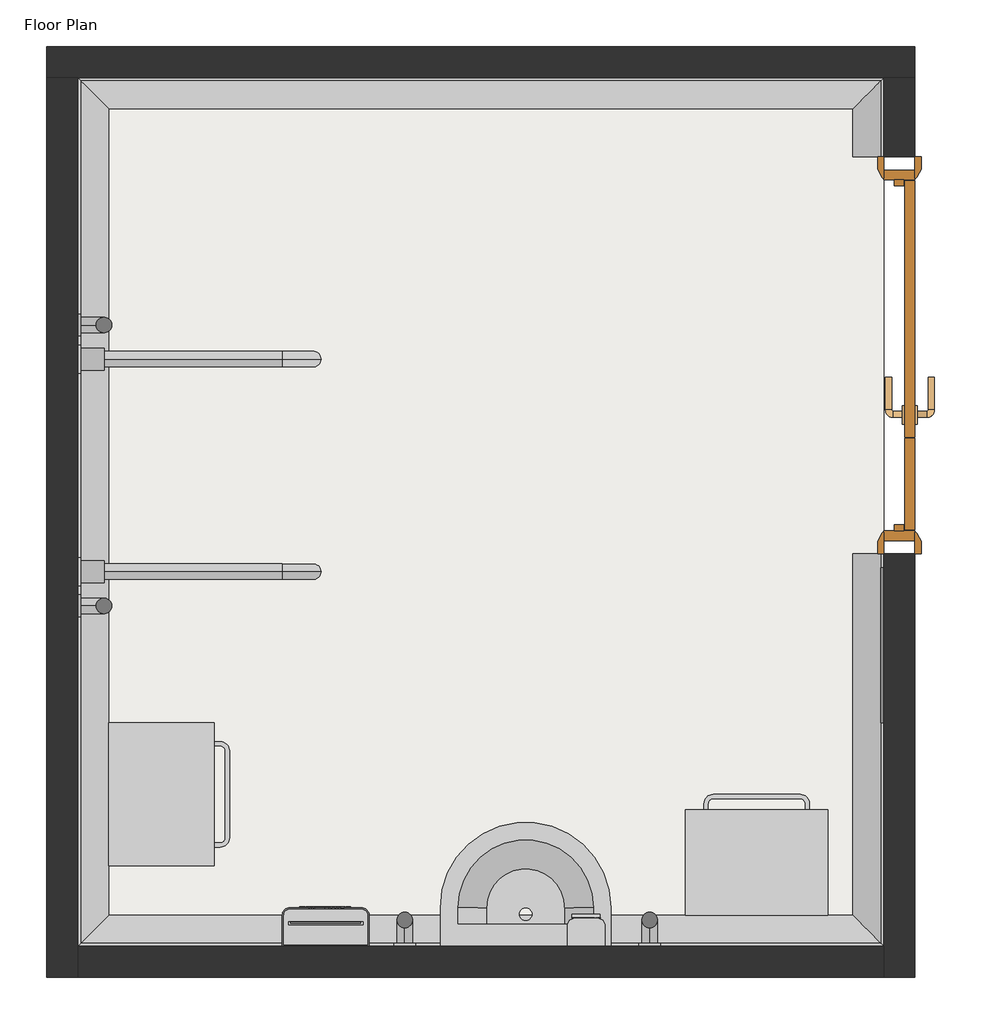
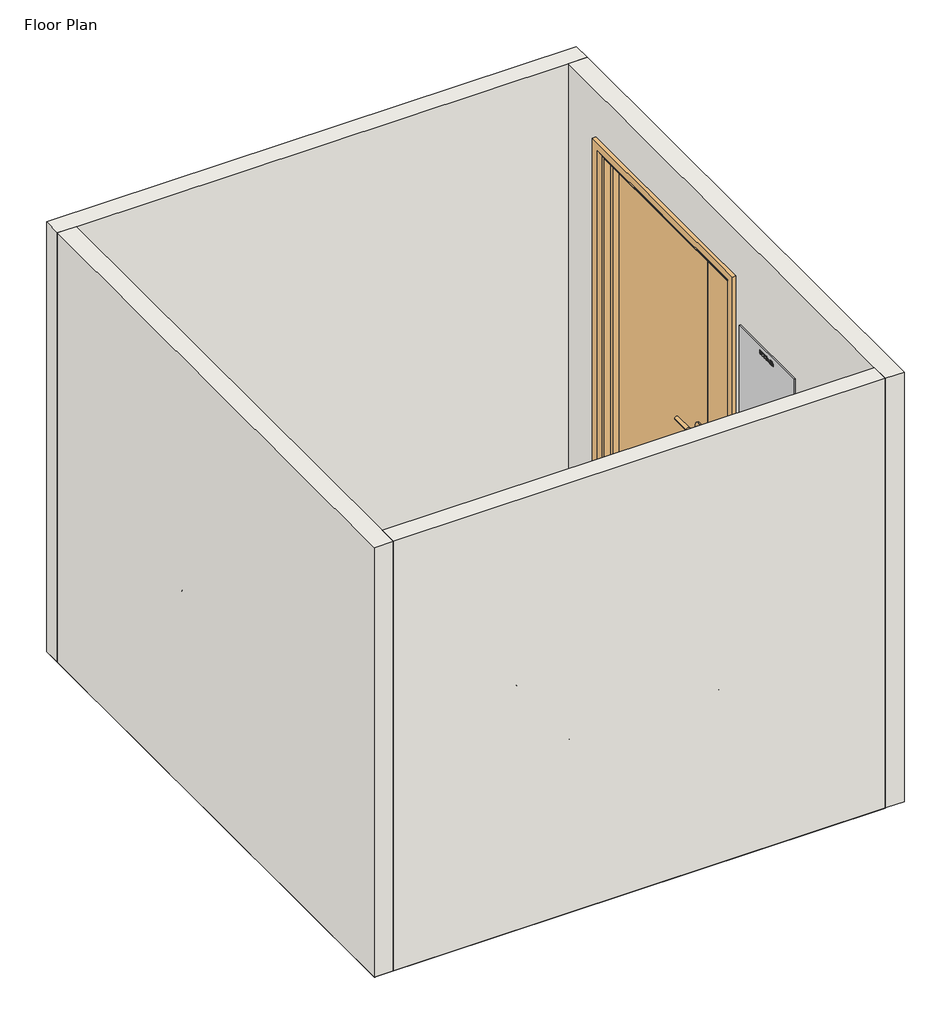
# One storey, incomplete: 10 proxies, 5 furniture elements, 4 walls, 1 door, 1 flow terminal, 1 slab.
"""IFC4 building model written with IfcOpenShell, lengths in millimetres."""

from ifc_helpers import new_model, si_unit, frame, origin, origin_with_axes, place, context, project, spatial, polyline, circle_curve, ellipse_curve, outline, extrude, faceted_brep, transform, mapped, element, save
from ifc_brep_helpers import plane_surface, revolved_surface, advanced_brep
from components import type_1_3e4eb001, type_1_f4c963d5, type_1_f275d547, type_1_04eb1ea4, bimhealth_door_and_half_1210x2110mm_sgl_swing_70a7d20a, flow_terminal_9bf15598, furniture_29951476, furniture_c6a9ce10, furniture_af9008cf, furniture_166ce8d1, furniture_26d36cfe

model = new_model("IFC4")

# Units and contexts
model_context = context("Model", 3, world=origin())
ifc_project = project(units=[si_unit("LENGTHUNIT", "METRE", prefix="MILLI")], contexts=[model_context])

# Site, building, storey
site = spatial("IfcSite", under=ifc_project)
building = spatial("IfcBuilding", under=site)
storey = spatial("IfcBuildingStorey", under=building, Name="Floor Plan", Elevation=0.0)

# Proxies
placement = place(None, origin())
element("IfcBuildingElementProxy", 1, Name="Wall Sweeps", at=placement, inside=storey, context=model_context, shape_type="AdvancedBrep", body=[
    advanced_brep(
    [(2105.0, 5160.0, 0.0), (2105.0, 5160.0, 100.0), (2095.0, 5160.0, 100.0), (2005.0, 5160.0, 10.0), (2005.0, 5160.0, 0.0), (2105.0, 5415.0, 0.0), (2005.0, 5315.0, 0.0), (2005.0, 5315.0, 10.0), (2095.0, 5405.0, 100.0), (2105.0, 5415.0, 100.0)],
    [
        (0, 1),
        (1, 2),
        (2, 3, circle_curve(frame((2005.0, 5160.0, 100.0), z_axis=(0.0, 1.0, 0.0), x_axis=(-1.0, 0.0, 0.0)), 90.0)),
        (3, 4),
        (4, 0),
        (5, 6),
        (6, 7),
        (7, 8, ellipse_curve(frame((2005.0, 5315.0, 100.0), z_axis=(0.7071067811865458, -0.7071067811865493, 0.0), x_axis=(0.7071067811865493, 0.7071067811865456, 0.0)), 127.2792206, 90.0)),
        (8, 9),
        (9, 5),
        (4, 6),
        (5, 0),
        (3, 7),
        (2, 8),
        (1, 9),
    ],
    [
        plane_surface(frame((2004.5012438, 5160.0, 0.0), z_axis=(0.0, -1.0, 0.0), x_axis=(0.0, 0.0, 1.0))),
        plane_surface(frame((2105.0, 5415.0, -304.8), z_axis=(-0.7071067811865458, 0.7071067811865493, 0.0), x_axis=(-0.7071067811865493, -0.7071067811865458, 0.0))),
        plane_surface(frame((2005.0, 5160.0, 0.0), z_axis=(0.0, 0.0, -1.0), x_axis=(0.0, 1.0, 0.0))),
        plane_surface(frame((2005.0, 5160.0, 10.0), z_axis=(-1.0, 0.0, 0.0), x_axis=(0.0, 1.0, 0.0))),
        revolved_surface(polyline([(1915.0, 5405.0, 100.0), (1915.0, 5160.0, 100.0)]), (2005.0, 5160.0, 100.0), (0.0, 1.0, 0.0)),
        plane_surface(frame((2105.0, 5160.0, 100.0), z_axis=(0.0, 0.0, 1.0), x_axis=(0.0, 1.0, 0.0))),
        plane_surface(frame((2105.0, 5160.0, 0.0), z_axis=(1.0, 0.0, 0.0), x_axis=(0.0, 1.0, 0.0))),
    ],
    [
        (0, [[1, 2, 3, 4, 5]]),
        (1, [[6, 7, 8, 9, 10]]),
        (2, [[-5, 11, -6, 12]]),
        (3, [[-4, 13, -7, -11]]),
        (4, [[-3, 14, -8, -13]]),
        (5, [[-2, 15, -9, -14]]),
        (6, [[-1, -12, -10, -15]]),
    ],
),
    advanced_brep(
    [(2105.0, 2615.0, 0.0), (2105.0, 2615.0, 100.0), (2095.0, 2625.0, 100.0), (2005.0, 2715.0, 10.0), (2005.0, 2715.0, 0.0), (2105.0, 3880.0, 0.0), (2005.0, 3880.0, 0.0), (2005.0, 3880.0, 10.0), (2095.0, 3880.0, 100.0), (2105.0, 3880.0, 100.0)],
    [
        (0, 1),
        (1, 2),
        (2, 3, ellipse_curve(frame((2005.0, 2715.0, 100.0), z_axis=(0.7071067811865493, 0.7071067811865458, 0.0), x_axis=(-0.7071067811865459, 0.7071067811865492, 0.0)), 127.2792206, 90.0)),
        (3, 4),
        (4, 0),
        (5, 6),
        (6, 7),
        (7, 8, circle_curve(frame((2005.0, 3880.0, 100.0), z_axis=(0.0, -1.0, 0.0), x_axis=(-1.0, 0.0, 0.0)), 90.0)),
        (8, 9),
        (9, 5),
        (4, 6),
        (5, 0),
        (3, 7),
        (2, 8),
        (1, 9),
    ],
    [
        plane_surface(frame((2105.0, 2615.0, -304.8), z_axis=(-0.7071067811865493, -0.7071067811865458, 0.0), x_axis=(-0.7071067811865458, 0.7071067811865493, 0.0))),
        plane_surface(frame((2004.5012438, 3880.0, 0.0), z_axis=(0.0, 1.0, 0.0), x_axis=(0.0, 0.0, 1.0))),
        plane_surface(frame((2005.0, 2715.0, 0.0), z_axis=(0.0, 0.0, -1.0), x_axis=(0.0, 1.0, 0.0))),
        plane_surface(frame((2005.0, 2715.0, 10.0), z_axis=(-1.0, 0.0, 0.0), x_axis=(0.0, 1.0, 0.0))),
        revolved_surface(polyline([(1915.0, 3880.0, 100.0), (1915.0, 2625.0, 100.0)]), (2005.0, 2615.0, 100.0), (0.0, 1.0, 0.0)),
        plane_surface(frame((2105.0, 2615.0, 100.0), z_axis=(0.0, 0.0, 1.0), x_axis=(0.0, 1.0, 0.0))),
        plane_surface(frame((2105.0, 2615.0, 0.0), z_axis=(1.0, 0.0, 0.0), x_axis=(0.0, 1.0, 0.0))),
    ],
    [
        (0, [[1, 2, 3, 4, 5]]),
        (1, [[6, 7, 8, 9, 10]]),
        (2, [[-5, 11, -6, 12]]),
        (3, [[-4, 13, -7, -11]]),
        (4, [[-3, 14, -8, -13]]),
        (5, [[-2, 15, -9, -14]]),
        (6, [[-1, -12, -10, -15]]),
    ],
),
])
element("IfcBuildingElementProxy", 2, Name="Wall Sweeps", at=placement, inside=storey, context=model_context, shape_type="AdvancedBrep", body=[
    advanced_brep(
    [(-495.0, 5415.0, 0.0), (-395.0, 5315.0, 0.0), (-395.0, 5315.0, 10.0), (-485.0, 5405.0, 100.0), (-495.0, 5415.0, 100.0), (2105.0, 5415.0, 0.0), (2105.0, 5415.0, 100.0), (2095.0, 5405.0, 100.0), (2005.0, 5315.0, 10.0), (2005.0, 5315.0, 0.0)],
    [
        (0, 1),
        (1, 2),
        (2, 3, ellipse_curve(frame((-395.0, 5315.0, 100.0), z_axis=(0.7071067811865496, 0.7071067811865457, 0.0), x_axis=(0.7071067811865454, -0.7071067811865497, 0.0)), 127.2792206, 90.0)),
        (3, 4),
        (4, 0),
        (5, 6),
        (6, 7),
        (7, 8, ellipse_curve(frame((2005.0, 5315.0, 100.0), z_axis=(-0.7071067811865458, 0.7071067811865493, 0.0), x_axis=(0.7071067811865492, 0.7071067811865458, 0.0)), 127.2792206, 90.0)),
        (8, 9),
        (9, 5),
        (0, 5),
        (9, 1),
        (8, 2),
        (7, 3),
        (6, 4),
    ],
    [
        plane_surface(frame((-495.0, 5415.0, 304.8), z_axis=(-0.7071067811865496, -0.7071067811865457, 0.0), x_axis=(0.7071067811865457, -0.7071067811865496, 0.0))),
        plane_surface(frame((2105.0, 5415.0, 304.8), z_axis=(0.7071067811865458, -0.7071067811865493, 0.0), x_axis=(-0.7071067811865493, -0.7071067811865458, 0.0))),
        plane_surface(frame((-495.0, 5415.0, 0.0), z_axis=(0.0, 0.0, -1.0), x_axis=(1.0, 0.0, 0.0))),
        plane_surface(frame((-395.0, 5315.0, 0.0), z_axis=(0.0, -1.0, 0.0), x_axis=(1.0, 0.0, 0.0))),
        revolved_surface(polyline([(2095.0, 5225.0, 100.0), (-485.0, 5225.0, 100.0)]), (-495.0, 5315.0, 100.0), (1.0, 0.0, 0.0)),
        plane_surface(frame((-485.0, 5405.0, 100.0), z_axis=(0.0, 0.0, 1.0), x_axis=(1.0, 0.0, 0.0))),
        plane_surface(frame((-495.0, 5415.0, 100.0), z_axis=(0.0, 1.0, 0.0), x_axis=(1.0, 0.0, 0.0))),
    ],
    [
        (0, [[1, 2, 3, 4, 5]]),
        (1, [[6, 7, 8, 9, 10]]),
        (2, [[-1, 11, -10, 12]]),
        (3, [[-2, -12, -9, 13]]),
        (4, [[-3, -13, -8, 14]]),
        (5, [[-4, -14, -7, 15]]),
        (6, [[-5, -15, -6, -11]]),
    ],
),
])
element("IfcBuildingElementProxy", 3, Name="Wall Sweeps", at=placement, inside=storey, context=model_context, shape_type="AdvancedBrep", body=[
    advanced_brep(
    [(-495.0, 5415.0, 0.0), (-495.0, 5415.0, 100.0), (-485.0, 5405.0, 100.0), (-395.0, 5315.0, 10.0), (-395.0, 5315.0, 0.0), (-495.0, 2615.0, 0.0), (-395.0, 2715.0, 0.0), (-395.0, 2715.0, 10.0), (-485.0, 2625.0, 100.0), (-495.0, 2615.0, 100.0)],
    [
        (0, 1),
        (1, 2),
        (2, 3, ellipse_curve(frame((-395.0, 5315.0, 100.0), z_axis=(-0.7071067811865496, -0.7071067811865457, 0.0), x_axis=(0.7071067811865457, -0.7071067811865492, 0.0)), 127.2792206, 90.0)),
        (3, 4),
        (4, 0),
        (5, 6),
        (6, 7),
        (7, 8, ellipse_curve(frame((-395.0, 2715.0, 100.0), z_axis=(-0.7071067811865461, 0.7071067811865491, 0.0), x_axis=(-0.7071067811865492, -0.7071067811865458, 0.0)), 127.2792206, 90.0)),
        (8, 9),
        (9, 5),
        (0, 5),
        (9, 1),
        (8, 2),
        (7, 3),
        (6, 4),
    ],
    [
        plane_surface(frame((-495.0, 5415.0, -304.8), z_axis=(0.7071067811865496, 0.7071067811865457, 0.0), x_axis=(0.7071067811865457, -0.7071067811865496, 0.0))),
        plane_surface(frame((-495.0, 2615.0, -304.8), z_axis=(0.7071067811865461, -0.7071067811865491, 0.0), x_axis=(0.7071067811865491, 0.7071067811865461, 0.0))),
        plane_surface(frame((-495.0, 5415.0, 0.0), z_axis=(-1.0, 0.0, 0.0), x_axis=(0.0, -1.0, 0.0))),
        plane_surface(frame((-495.0, 5415.0, 100.0), z_axis=(0.0, 0.0, 1.0), x_axis=(0.0, -1.0, 0.0))),
        revolved_surface(polyline([(-305.0, 2625.0, 100.0), (-305.0, 5405.0, 100.0)]), (-395.0, 5415.0, 100.0), (0.0, -1.0, 0.0)),
        plane_surface(frame((-395.0, 5315.0, 10.0), z_axis=(1.0, 0.0, 0.0), x_axis=(0.0, -1.0, 0.0))),
        plane_surface(frame((-395.0, 5315.0, 0.0), z_axis=(0.0, 0.0, -1.0), x_axis=(0.0, -1.0, 0.0))),
    ],
    [
        (0, [[1, 2, 3, 4, 5]]),
        (1, [[6, 7, 8, 9, 10]]),
        (2, [[-1, 11, -10, 12]]),
        (3, [[-2, -12, -9, 13]]),
        (4, [[-3, -13, -8, 14]]),
        (5, [[-4, -14, -7, 15]]),
        (6, [[-5, -15, -6, -11]]),
    ],
),
])
element("IfcBuildingElementProxy", 4, Name="Wall Sweeps", at=placement, inside=storey, context=model_context, shape_type="AdvancedBrep", body=[
    advanced_brep(
    [(-495.0, 2615.0, 0.0), (-495.0, 2615.0, 100.0), (-485.0, 2625.0, 100.0), (-395.0, 2715.0, 10.0), (-395.0, 2715.0, 0.0), (2105.0, 2615.0, 0.0), (2005.0, 2715.0, 0.0), (2005.0, 2715.0, 10.0), (2095.0, 2625.0, 100.0), (2105.0, 2615.0, 100.0)],
    [
        (0, 1),
        (1, 2),
        (2, 3, ellipse_curve(frame((-395.0, 2715.0, 100.0), z_axis=(0.7071067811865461, -0.7071067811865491, 0.0), x_axis=(0.7071067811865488, 0.7071067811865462, 0.0)), 127.2792206, 90.0)),
        (3, 4),
        (4, 0),
        (5, 6),
        (6, 7),
        (7, 8, ellipse_curve(frame((2005.0, 2715.0, 100.0), z_axis=(-0.7071067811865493, -0.7071067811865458, 0.0), x_axis=(0.7071067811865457, -0.7071067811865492, 0.0)), 127.2792206, 90.0)),
        (8, 9),
        (9, 5),
        (0, 5),
        (9, 1),
        (8, 2),
        (7, 3),
        (6, 4),
    ],
    [
        plane_surface(frame((-495.0, 2615.0, -304.8), z_axis=(-0.7071067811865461, 0.7071067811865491, 0.0), x_axis=(0.7071067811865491, 0.7071067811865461, 0.0))),
        plane_surface(frame((2105.0, 2615.0, -304.8), z_axis=(0.7071067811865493, 0.7071067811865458, 0.0), x_axis=(-0.7071067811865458, 0.7071067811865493, 0.0))),
        plane_surface(frame((-495.0, 2615.0, 0.0), z_axis=(0.0, -1.0, 0.0), x_axis=(1.0, 0.0, 0.0))),
        plane_surface(frame((-495.0, 2615.0, 100.0), z_axis=(0.0, 0.0, 1.0), x_axis=(1.0, 0.0, 0.0))),
        revolved_surface(polyline([(2095.0, 2805.0, 100.0), (-485.0, 2805.0, 100.0)]), (-495.0, 2715.0, 100.0), (1.0, 0.0, 0.0)),
        plane_surface(frame((-395.0, 2715.0, 10.0), z_axis=(0.0, 1.0, 0.0), x_axis=(1.0, 0.0, 0.0))),
        plane_surface(frame((-395.0, 2715.0, 0.0), z_axis=(0.0, 0.0, -1.0), x_axis=(1.0, 0.0, 0.0))),
    ],
    [
        (0, [[1, 2, 3, 4, 5]]),
        (1, [[6, 7, 8, 9, 10]]),
        (2, [[-1, 11, -10, 12]]),
        (3, [[-2, -12, -9, 13]]),
        (4, [[-3, -13, -8, 14]]),
        (5, [[-4, -14, -7, 15]]),
        (6, [[-5, -15, -6, -11]]),
    ],
),
])
type_1_shape = type_1_3e4eb001(model_context)
element("IfcBuildingElementProxy", 5, Name="BIMHealth-Grab_Rail_Vertical-LOD2A-v1 : Type 1", ObjectType="BIMHealth-Grab_Rail_Vertical-LOD2A-v1 : Type 1", at=placement, inside=storey, context=model_context, shape_type="MappedRepresentation", body=[
    mapped(type_1_shape, transform((-545.0, 3837.5, 0.0), x_axis=(0.0, -1.0, 0.0), y_axis=(1.0, 0.0, 0.0), z_axis=(0.0, 0.0, 1.0))),
])
element("IfcBuildingElementProxy", 6, Name="BIMHealth-Grab_Rail_Vertical-LOD2A-v1 : Type 1", ObjectType="BIMHealth-Grab_Rail_Vertical-LOD2A-v1 : Type 1", at=placement, inside=storey, context=model_context, shape_type="MappedRepresentation", body=[
    mapped(type_1_shape, transform((1225.0, 2565.0, 0.0), x_axis=(1.0, 0.0, 0.0), y_axis=(0.0, 1.0, 0.0), z_axis=(0.0, 0.0, 1.0))),
])
element("IfcBuildingElementProxy", 7, Name="BIMHealth-Grab_Rail_Vertical-LOD2A-v1 : Type 1", ObjectType="BIMHealth-Grab_Rail_Vertical-LOD2A-v1 : Type 1", at=placement, inside=storey, context=model_context, shape_type="MappedRepresentation", body=[
    mapped(type_1_shape, transform((435.0, 2565.0, 0.0), x_axis=(1.0, 0.0, 0.0), y_axis=(0.0, 1.0, 0.0), z_axis=(0.0, 0.0, 1.0))),
])
type_1_2_shape = type_1_f4c963d5(model_context)
element("IfcBuildingElementProxy", 8, Name="BIMHealth-Grab_Rail_Vertical-LOD2A-v1 : Type 1", ObjectType="BIMHealth-Grab_Rail_Vertical-LOD2A-v1 : Type 1", at=placement, inside=storey, context=model_context, shape_type="MappedRepresentation", body=[
    mapped(type_1_2_shape, transform((-545.0, 4492.5, 0.0), x_axis=(0.0, 1.0, 0.0), y_axis=(-1.0, 0.0, 0.0), z_axis=(0.0, 0.0, 1.0))),
])
type_1_3_shape = type_1_f275d547(model_context)
element("IfcBuildingElementProxy", 9, Name="BIMHealth-Grab_Rail_Drop_Down-LOD2A-v1 : Type 1", ObjectType="BIMHealth-Grab_Rail_Drop_Down-LOD2A-v1 : Type 1", at=placement, inside=storey, context=model_context, shape_type="MappedRepresentation", body=[
    mapped(type_1_3_shape, transform((-545.0, 4382.5, 0.0), x_axis=(0.0, 1.0, 0.0), y_axis=(-1.0, 0.0, 0.0), z_axis=(0.0, 0.0, 1.0))),
])
type_1_4_shape = type_1_04eb1ea4(model_context)
element("IfcBuildingElementProxy", 10, Name="BIMHealth-Grab_Rail_Drop_Down-LOD2A-v1 : Type 1", ObjectType="BIMHealth-Grab_Rail_Drop_Down-LOD2A-v1 : Type 1", at=placement, inside=storey, context=model_context, shape_type="MappedRepresentation", body=[
    mapped(type_1_4_shape, transform((-545.0, 3947.5, 0.0), x_axis=(0.0, -1.0, 0.0), y_axis=(1.0, 0.0, 0.0), z_axis=(0.0, 0.0, 1.0))),
])

# Door
bimhealth_door_and_half_1210x2110mm_sgl_swing_shape = bimhealth_door_and_half_1210x2110mm_sgl_swing_70a7d20a(model_context)
element("IfcDoor", 11, ObjectType="BIMHealth-Door_and_half : 1210x2110mm-Sgl_Swing", at=placement, inside=storey, context=model_context, shape_type="MappedRepresentation", body=[
    mapped(bimhealth_door_and_half_1210x2110mm_sgl_swing_shape, transform((2155.0, 4281.0, 0.0), x_axis=(0.0, 1.0, 0.0), y_axis=(-1.0, 0.0, 0.0), z_axis=(0.0, 0.0, 1.0))),
])

# Flow terminal
flow_terminal_shape = flow_terminal_9bf15598(model_context)
element("IfcFlowTerminal", 12, ObjectType="BIMHealth-Wash_basin_Doc_M-LOD2A-v1 : BIMHealth-Wash_basin_Doc_M-LOD2A-v1", at=placement, inside=storey, context=model_context, shape_type="MappedRepresentation", body=[
    mapped(flow_terminal_shape, transform((675.0, 2615.0, 500.0), x_axis=(1.0000000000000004, 0.0, 0.0), y_axis=(0.0, 1.0000000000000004, 0.0), z_axis=(0.0, 0.0, 1.0))),
])

# Furniture
furniture_shape = furniture_29951476(model_context)
element("IfcFurniture", 13, ObjectType="BIMHealth-Mirror_Consultation-LOD2A-v1 : BIMHealth-Mirror_Consultation-LOD2A-v1", at=placement, inside=storey, context=model_context, shape_type="MappedRepresentation", body=[
    mapped(furniture_shape, transform((2105.0, 3835.0, -199.8551713), x_axis=(0.0, -1.0, 0.0), y_axis=(1.0, 0.0, 0.0), z_axis=(0.0, 0.0, 1.0))),
])
furniture_2_shape = furniture_c6a9ce10(model_context)
element("IfcFurniture", 14, ObjectType="BIMHealth-Bin_Clinical_Foot_Operated-LOD2A-v1 : BIMHealth-Bin_Clinical_Foot_Operated-LOD2A-v1", at=placement, inside=storey, context=model_context, shape_type="MappedRepresentation", body=[
    mapped(furniture_2_shape, transform((1915.0, 2725.0, 0.0), x_axis=(-1.0, 0.0, 0.0), y_axis=(0.0, -1.0, 0.0), z_axis=(0.0, 0.0, 1.0))),
])
furniture_3_shape = furniture_af9008cf(model_context)
element("IfcFurniture", 15, ObjectType="BIMHealth-Bin_Clinical_Foot_Operated-LOD2A-v1 : BIMHealth-Bin_Clinical_Foot_Operated-LOD2A-v1", at=placement, inside=storey, context=model_context, shape_type="MappedRepresentation", body=[
    mapped(furniture_3_shape, transform((-385.0, 3325.0, 0.0), x_axis=(0.0, -1.0000000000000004, 0.0), y_axis=(1.0000000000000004, 0.0, 0.0), z_axis=(0.0, 0.0, 1.0))),
])
furniture_4_shape = furniture_166ce8d1(model_context)
element("IfcFurniture", 16, ObjectType="BIMHealth-Paper_Towel_Dispenser-LOD2A-v1 : BIMHealth-Paper_Towel_Dispenser-LOD2A-v1", at=placement, inside=storey, context=model_context, shape_type="MappedRepresentation", body=[
    mapped(furniture_4_shape, transform((445.0, 2615.0, -304.3123274), x_axis=(-1.0000000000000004, 0.0, 0.0), y_axis=(0.0, -1.0000000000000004, 0.0), z_axis=(0.0, 0.0, 1.0))),
])
furniture_5_shape = furniture_26d36cfe(model_context)
element("IfcFurniture", 17, ObjectType="BIMHealth-Soap_Dispenser-LOD2A-v1 : BIMHealth-Soap_Dispenser-LOD2A-v1", at=placement, inside=storey, context=model_context, shape_type="MappedRepresentation", body=[
    mapped(furniture_5_shape, transform((1205.0, 2615.0, -290.4712325), x_axis=(-0.9999999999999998, 0.0, 0.0), y_axis=(0.0, -0.9999999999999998, 0.0), z_axis=(0.0, 0.0, 1.0))),
])

# Slab
element("IfcSlab", 18, ObjectType="BIMHealth - Generic Floor", at=placement, inside=storey, context=model_context, shape_type="SweptSolid", body=[
    extrude(outline(polyline([(2105.0, 5515.0), (2105.0, 2515.0), (-595.0, 2515.0), (-595.0, 5515.0), (2105.0, 5515.0)])), frame((0.0, 0.0, -2.0), z_axis=(0.0, 0.0, 1.0), x_axis=(1.0, 0.0, 0.0)), (0.0, 0.0, 1.0), 2.0),
])

# Walls
element("IfcWall", 19, ObjectType="BIMHealth - Generic Wall", at=placement, inside=storey, context=model_context, shape_type="Brep", body=[
    faceted_brep([(2205.0, 5415.0, 2400.0), (2205.0, 2515.0, 2400.0), (2205.0, 2515.0, 0.0), (2205.0, 3880.0, 0.0), (2205.0, 3880.0, 2110.0), (2205.0, 5160.0, 2110.0), (2205.0, 5160.0, 0.0), (2205.0, 5415.0, 0.0), (2105.0, 2515.0, 2400.0), (2105.0, 2615.0, 2400.0), (2105.0, 5415.0, 2400.0), (2105.0, 5415.0, 0.0), (2105.0, 5160.0, 0.0), (2105.0, 5160.0, 100.0), (2105.0, 5160.0, 2110.0), (2105.0, 3880.0, 2110.0), (2105.0, 3880.0, 100.0), (2105.0, 3880.0, 0.0), (2105.0, 2615.0, 0.0), (2105.0, 2515.0, 0.0)], [[[0, 1, 2, 3, 4, 5, 6, 7]], [[8, 9, 10, 11, 12, 13, 14, 15, 16, 17, 18, 19]], [[2, 19, 18, 17, 3]], [[11, 7, 6, 12]], [[1, 0, 10, 9, 8]], [[5, 14, 13, 12, 6]], [[14, 5, 4, 15]], [[15, 4, 3, 17, 16]], [[2, 1, 8, 19]], [[0, 7, 11, 10]]]),
])
element("IfcWall", 20, ObjectType="BIMHealth - Generic Wall", at=placement, inside=storey, context=model_context, shape_type="Brep", body=[
    faceted_brep([(-595.0, 5415.0, 0.0), (-495.0, 5415.0, 0.0), (2105.0, 5415.0, 0.0), (2205.0, 5415.0, 0.0), (2205.0, 5415.0, 2400.0), (2105.0, 5415.0, 2400.0), (-495.0, 5415.0, 2400.0), (-595.0, 5415.0, 2400.0), (-595.0, 5515.0, 0.0), (-595.0, 5515.0, 2400.0), (2205.0, 5515.0, 2400.0), (2205.0, 5515.0, 0.0)], [[[0, 1, 2, 3, 4, 5, 6, 7]], [[8, 9, 10, 11]], [[3, 2, 1, 0, 8, 11]], [[7, 6, 5, 4, 10, 9]], [[0, 7, 9, 8]], [[4, 3, 11, 10]]]),
])
element("IfcWall", 21, ObjectType="BIMHealth - Generic Wall", at=placement, inside=storey, context=model_context, shape_type="Brep", body=[
    faceted_brep([(-595.0, 5415.0, 0.0), (-595.0, 2515.0, 0.0), (-595.0, 2515.0, 2400.0), (-595.0, 5415.0, 2400.0), (-495.0, 5415.0, 0.0), (-495.0, 5415.0, 2400.0), (-495.0, 2615.0, 2400.0), (-495.0, 2515.0, 2400.0), (-495.0, 2515.0, 0.0), (-495.0, 2615.0, 0.0)], [[[0, 1, 2, 3]], [[4, 5, 6, 7, 8, 9]], [[1, 0, 4, 9, 8]], [[3, 2, 7, 6, 5]], [[0, 3, 5, 4]], [[2, 1, 8, 7]]]),
])
element("IfcWall", 22, ObjectType="BIMHealth - Generic Wall", at=placement, inside=storey, context=model_context, shape_type="SweptSolid", body=[
    extrude(outline(polyline([(2105.0, 2515.0), (-495.0, 2515.0), (-495.0, 2615.0), (2105.0, 2615.0), (2105.0, 2515.0)])), origin_with_axes(), (0.0, 0.0, 1.0), 2400.0),
])

save(model, "model.ifc")
